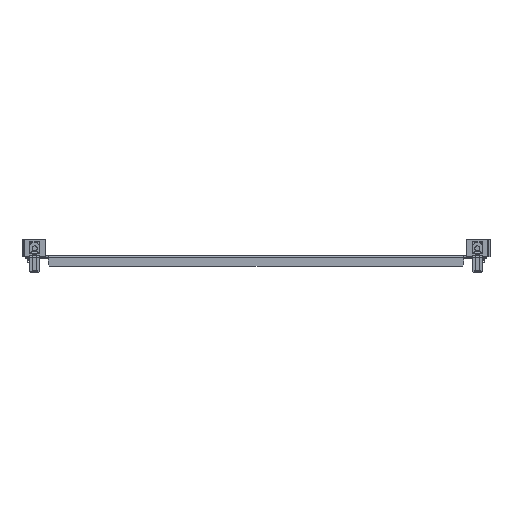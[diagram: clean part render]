
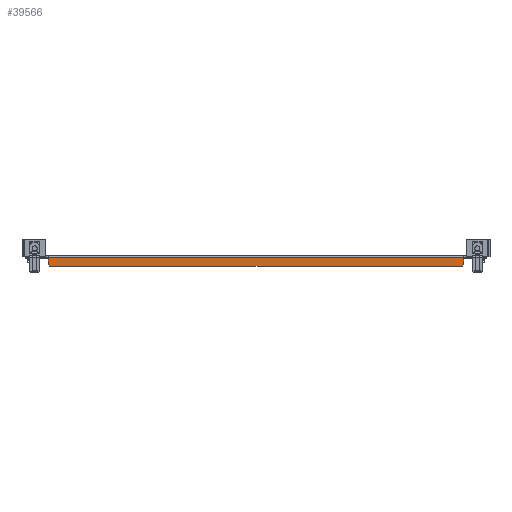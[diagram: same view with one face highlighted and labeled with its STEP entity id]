
A CAD part, front view. The second image highlights one B-rep face of the part: STEP entity #39566.
In plain terms, the highlighted planar face has unit normal (0, -1, 0).
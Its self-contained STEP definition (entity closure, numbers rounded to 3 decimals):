
#31081=CARTESIAN_POINT(' ',(-246.5,-136.5,-10.));
#31082=VERTEX_POINT(' ',#31081);
#31096=CARTESIAN_POINT(' ',(-246.5,-136.5,-2.1));
#31101=DIRECTION(' ',(0.,0.,-1.));
#31106=VECTOR(' ',#31101,1.);
#31111=LINE('',#31096,#31106);
#31116=CARTESIAN_POINT(' ',(-246.5,-136.5,-2.1));
#31117=VERTEX_POINT(' ',#31116);
#31121=EDGE_CURVE(' ',#31117,#31082,#31111,.T.);
#31226=CARTESIAN_POINT(' ',(-246.5,-136.5,-2.1));
#31231=DIRECTION(' ',(1.,0.,0.));
#31236=VECTOR(' ',#31231,1.);
#31241=LINE('',#31226,#31236);
#31246=CARTESIAN_POINT(' ',(246.5,-136.5,-2.1));
#31247=VERTEX_POINT(' ',#31246);
#31251=EDGE_CURVE(' ',#31117,#31247,#31241,.T.);
#31346=CARTESIAN_POINT(' ',(246.5,-136.5,-10.));
#31351=DIRECTION(' ',(0.,0.,1.));
#31356=VECTOR(' ',#31351,1.);
#31361=LINE('',#31346,#31356);
#31366=CARTESIAN_POINT(' ',(246.5,-136.5,-10.));
#31367=VERTEX_POINT(' ',#31366);
#31371=EDGE_CURVE(' ',#31367,#31247,#31361,.T.);
#39356=CARTESIAN_POINT(' ',(-246.5,-136.5,-10.));
#39361=DIRECTION(' ',(0.707,0.,-0.707));
#39366=VECTOR(' ',#39361,1.);
#39371=LINE('',#39356,#39366);
#39376=CARTESIAN_POINT(' ',(-244.5,-136.5,-12.));
#39377=VERTEX_POINT(' ',#39376);
#39381=EDGE_CURVE(' ',#31082,#39377,#39371,.T.);
#39446=DIRECTION(' ',(-0.,-1.,0.));
#39451=CARTESIAN_POINT(' ',(-246.5,-136.5,-12.));
#39456=DIRECTION(' ',(1.,-0.,0.));
#39461=AXIS2_PLACEMENT_3D(' ',#39451,#39446,#39456);
#39466=PLANE('NONE',#39461);
#39471=CARTESIAN_POINT(' ',(-244.5,-136.5,-12.));
#39476=DIRECTION(' ',(1.,0.,0.));
#39481=VECTOR(' ',#39476,1.);
#39486=LINE('',#39471,#39481);
#39491=CARTESIAN_POINT(' ',(244.5,-136.5,-12.));
#39492=VERTEX_POINT(' ',#39491);
#39496=EDGE_CURVE(' ',#39377,#39492,#39486,.T.);
#39501=ORIENTED_EDGE(' ',*,*,#39496,.T.);
#39506=CARTESIAN_POINT(' ',(244.5,-136.5,-12.));
#39511=DIRECTION(' ',(0.707,0.,0.707));
#39516=VECTOR(' ',#39511,1.);
#39521=LINE('',#39506,#39516);
#39526=EDGE_CURVE(' ',#39492,#31367,#39521,.T.);
#39531=ORIENTED_EDGE(' ',*,*,#39526,.T.);
#39536=ORIENTED_EDGE(' ',*,*,#31371,.T.);
#39541=ORIENTED_EDGE(' ',*,*,#31251,.F.);
#39546=ORIENTED_EDGE(' ',*,*,#31121,.T.);
#39551=ORIENTED_EDGE(' ',*,*,#39381,.T.);
#39556=EDGE_LOOP(' ',(#39501,#39531,#39536,#39541,#39546,#39551));
#39561=FACE_OUTER_BOUND(' ',#39556,.T.);
#39566=ADVANCED_FACE('NONE',(#39561),#39466,.T.);
